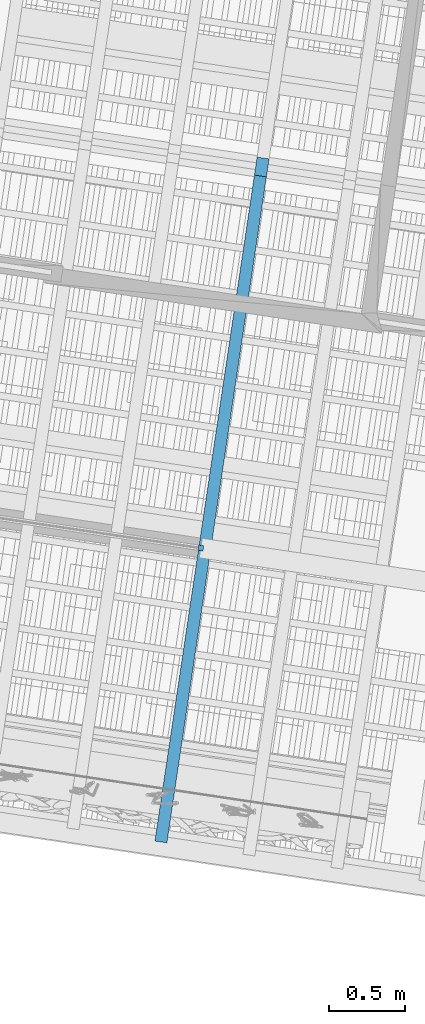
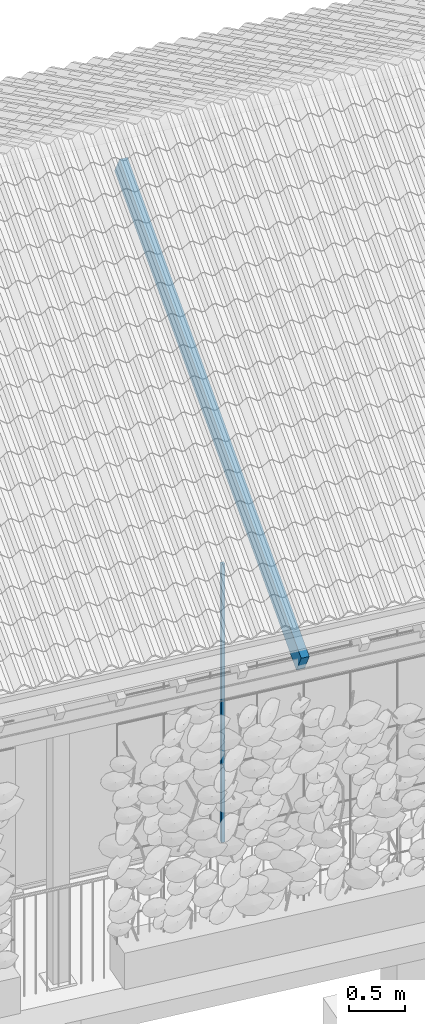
# One storey, part 80 of 131: 2 members, 1 element without a shape of its own.
"""IFC4 building model written with IfcOpenShell, lengths in metres."""

from ifc_helpers import new_model, si_unit, direction, frame, origin_with_axes, place, context, subcontext, project, spatial, rectangle, extrude, material, material_profile, profile_set, profile_usage, type_object, element, aggregate, save


model = new_model("IFC4")

# Units and contexts
model_context = context("Model", 3, precision=1e-05, world=origin_with_axes(), true_north=direction((0.0, 1.0)))
body_context = subcontext(model_context, "Body", "Model", "MODEL_VIEW")
ifc_project = project(units=[si_unit("VOLUMEUNIT", "CUBIC_METRE"), si_unit("LENGTHUNIT", "METRE"), si_unit("AREAUNIT", "SQUARE_METRE")], contexts=[model_context])

# Site, building, storey
site_placement = place(None, origin_with_axes())
site = spatial("IfcSite", under=ifc_project, at=site_placement, Name="Lares · Rua das Mercês · artigo 4771")
building_placement = place(site_placement, frame((15.0, 9.7, 15.8), z_axis=(0.0, 0.0, 1.0), x_axis=(0.989015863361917, -0.147809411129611, 0.0)))
building = spatial("IfcBuilding", under=site, at=building_placement, Name="Casa Sobreposta")
storey_placement = place(building_placement, origin_with_axes())
storey = spatial("IfcBuildingStorey", under=building, at=storey_placement, Name="00 · Habitação e estacionamento", Elevation=15.8)

# Member
ifc_material_1 = material(Name="Aço pintado / Stahl lackiert", Category="steel")
ifc_material_profile_1 = material_profile(ifc_material_1, rectangle(XDim=0.035, YDim=0.035))
ifc_profile_set_1 = profile_set([ifc_material_profile_1], Name="R0.035")
ifc_profile_usage_1 = profile_usage(ifc_profile_set_1)
member_type_1 = type_object("IfcMemberType", Name="R0.035 / steel", PredefinedType="NOTDEFINED", material=ifc_profile_set_1)
member_1_placement = place(storey_placement, frame((14.1493333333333, 0.0, 0.0), z_axis=(0.0, 0.0, 1.0), x_axis=(1.0, 0.0, 0.0)))
element("IfcMember", 1, at=member_1_placement, inside=storey, type_object=member_type_1, material=ifc_profile_usage_1, Name="Folha de correr sul 6 · montante", context=body_context, shape_type="SweptSolid", body=[
    extrude(rectangle(XDim=0.035, YDim=0.035), origin_with_axes(), (0.0, 0.0, 1.0), 3.05),
])

# Roof, member
ifc_material_2 = material(Name="Madeira / Bauholz", Category="wood")
roof_placement = place(storey_placement, origin_with_axes())
roof = element("IfcRoof", 2, at=roof_placement, inside=storey, material=ifc_material_2, Name="Cobertura de telha · duas águas 30 graus", PredefinedType="GABLE_ROOF")
ifc_material_profile_2 = material_profile(ifc_material_2, rectangle(XDim=0.08, YDim=0.24))
ifc_profile_set_2 = profile_set([ifc_material_profile_2], Name="TIMBER0.080x0.240")
ifc_profile_usage_2 = profile_usage(ifc_profile_set_2)
member_type_2 = type_object("IfcMemberType", Name="TIMBER0.080x0.240 / timber", PredefinedType="NOTDEFINED", material=ifc_profile_set_2)
member_2_placement = place(roof_placement, frame((14.1757575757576, -1.9, 3.181), z_axis=(0.0, 0.866025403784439, 0.5), x_axis=(1.0, 0.0, 0.0)))
member_2 = element("IfcMember", 3, at=member_2_placement, type_object=member_type_2, material=ifc_profile_usage_2, Name="Cobertura · caibro", context=body_context, shape_type="SweptSolid", body=[
    extrude(rectangle(XDim=0.08, YDim=0.24), origin_with_axes(), (0.0, 0.0, 1.0), 5.13841739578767),
])
aggregate(roof, [member_2])

save(model, "model.ifc")
